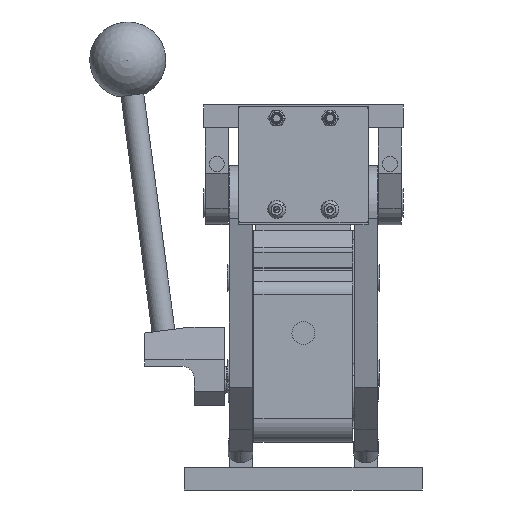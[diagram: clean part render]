
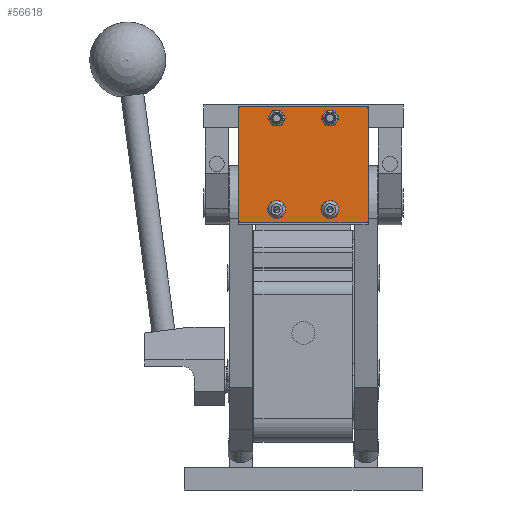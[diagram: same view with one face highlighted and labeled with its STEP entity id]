
A CAD part, left-side view. The second image highlights one B-rep face of the part: STEP entity #56618.
In plain terms, the highlighted planar face has unit normal (-1, 0, 0) as drawn and (0, 0, 1) by its records, which use the part's own axes.
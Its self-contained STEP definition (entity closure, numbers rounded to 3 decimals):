
#149 = DIRECTION ( 'NONE',  ( 0., -1., 0. ) ) ;
#593 = CIRCLE ( 'NONE', #37306, 2.75 ) ;
#774 = FACE_BOUND ( 'NONE', #14080, .T. ) ;
#846 = LINE ( 'NONE', #41870, #33480 ) ;
#911 = ORIENTED_EDGE ( 'NONE', *, *, #6691, .F. ) ;
#1277 = EDGE_CURVE ( 'NONE', #41253, #51552, #43505, .T. ) ;
#1658 = VERTEX_POINT ( 'NONE', #11567 ) ;
#3113 = VERTEX_POINT ( 'NONE', #17120 ) ;
#3203 = DIRECTION ( 'NONE',  ( -1., 0., 0. ) ) ;
#4477 = ORIENTED_EDGE ( 'NONE', *, *, #57223, .F. ) ;
#4602 = EDGE_CURVE ( 'NONE', #25399, #27328, #5806, .T. ) ;
#4932 = VECTOR ( 'NONE', #149, 1000. ) ;
#5280 = AXIS2_PLACEMENT_3D ( 'NONE', #20363, #53674, #24938 ) ;
#5566 = EDGE_CURVE ( 'NONE', #38778, #47153, #24729, .T. ) ;
#5619 = DIRECTION ( 'NONE',  ( 0., 0., 1. ) ) ;
#5639 = FACE_BOUND ( 'NONE', #26496, .T. ) ;
#5806 = CIRCLE ( 'NONE', #27823, 2.75 ) ;
#6097 = DIRECTION ( 'NONE',  ( 0., 0., 1. ) ) ;
#6691 = EDGE_CURVE ( 'NONE', #36536, #3113, #593, .T. ) ;
#7435 = AXIS2_PLACEMENT_3D ( 'NONE', #25360, #61520, #16470 ) ;
#7809 = DIRECTION ( 'NONE',  ( 0., 0., 1. ) ) ;
#9813 = ORIENTED_EDGE ( 'NONE', *, *, #15017, .F. ) ;
#10163 = CARTESIAN_POINT ( 'NONE',  ( 11.25, 8., 32. ) ) ;
#11567 = CARTESIAN_POINT ( 'NONE',  ( 34., 61., 32. ) ) ;
#11968 = DIRECTION ( 'NONE',  ( 1., 0., 0. ) ) ;
#13098 = AXIS2_PLACEMENT_3D ( 'NONE', #42979, #7809, #3203 ) ;
#13160 = CARTESIAN_POINT ( 'NONE',  ( -16.75, 56., 32. ) ) ;
#13453 = CARTESIAN_POINT ( 'NONE',  ( 33., 1., 32. ) ) ;
#13861 = DIRECTION ( 'NONE',  ( 0., 0., 1. ) ) ;
#14080 = EDGE_LOOP ( 'NONE', ( #16696, #18195 ) ) ;
#14851 = DIRECTION ( 'NONE',  ( 1., 0., 0. ) ) ;
#15017 = EDGE_CURVE ( 'NONE', #51552, #41253, #50233, .T. ) ;
#15177 = AXIS2_PLACEMENT_3D ( 'NONE', #33010, #37960, #11968 ) ;
#15647 = EDGE_LOOP ( 'NONE', ( #4477, #36749 ) ) ;
#15996 = EDGE_CURVE ( 'NONE', #3113, #36536, #25208, .T. ) ;
#16219 = DIRECTION ( 'NONE',  ( 0., 1., 0. ) ) ;
#16470 = DIRECTION ( 'NONE',  ( 1., 0., 0. ) ) ;
#16696 = ORIENTED_EDGE ( 'NONE', *, *, #4602, .F. ) ;
#17120 = CARTESIAN_POINT ( 'NONE',  ( -11.25, 56., 32. ) ) ;
#17143 = ORIENTED_EDGE ( 'NONE', *, *, #60816, .T. ) ;
#17675 = VECTOR ( 'NONE', #45396, 1000. ) ;
#18066 = EDGE_CURVE ( 'NONE', #52437, #25906, #44932, .T. ) ;
#18195 = ORIENTED_EDGE ( 'NONE', *, *, #32303, .F. ) ;
#19108 = DIRECTION ( 'NONE',  ( -1., 0., 0. ) ) ;
#19716 = ORIENTED_EDGE ( 'NONE', *, *, #38205, .T. ) ;
#20363 = CARTESIAN_POINT ( 'NONE',  ( -14., 56., 32. ) ) ;
#20406 = EDGE_LOOP ( 'NONE', ( #17143, #60531, #58570, #33593, #38799, #39586, #39605, #19716 ) ) ;
#20432 = PLANE ( 'NONE',  #21084 ) ;
#21084 = AXIS2_PLACEMENT_3D ( 'NONE', #56250, #61508, #47029 ) ;
#21196 = CARTESIAN_POINT ( 'NONE',  ( 14., 8., 32. ) ) ;
#21693 = LINE ( 'NONE', #41433, #63401 ) ;
#21973 = EDGE_CURVE ( 'NONE', #42427, #38778, #23051, .T. ) ;
#22798 = CARTESIAN_POINT ( 'NONE',  ( -14., 8., 32. ) ) ;
#22926 = AXIS2_PLACEMENT_3D ( 'NONE', #21196, #6097, #51459 ) ;
#23051 = CIRCLE ( 'NONE', #27243, 1. ) ;
#23693 = CARTESIAN_POINT ( 'NONE',  ( -14., 8., 32. ) ) ;
#24446 = CARTESIAN_POINT ( 'NONE',  ( 34., 2., 32. ) ) ;
#24729 = LINE ( 'NONE', #31370, #4932 ) ;
#24938 = DIRECTION ( 'NONE',  ( 1., 0., 0. ) ) ;
#24992 = LINE ( 'NONE', #64487, #17675 ) ;
#25208 = CIRCLE ( 'NONE', #5280, 2.75 ) ;
#25360 = CARTESIAN_POINT ( 'NONE',  ( 14., 56., 32. ) ) ;
#25399 = VERTEX_POINT ( 'NONE', #49169 ) ;
#25633 = ORIENTED_EDGE ( 'NONE', *, *, #15996, .F. ) ;
#25681 = FACE_BOUND ( 'NONE', #15647, .T. ) ;
#25906 = VERTEX_POINT ( 'NONE', #38887 ) ;
#25987 = CARTESIAN_POINT ( 'NONE',  ( -14., 56., 32. ) ) ;
#26391 = EDGE_CURVE ( 'NONE', #47153, #57948, #43323, .T. ) ;
#26496 = EDGE_LOOP ( 'NONE', ( #25633, #911 ) ) ;
#26757 = DIRECTION ( 'NONE',  ( 0., 0., 1. ) ) ;
#26870 = ORIENTED_EDGE ( 'NONE', *, *, #1277, .F. ) ;
#27243 = AXIS2_PLACEMENT_3D ( 'NONE', #44098, #38881, #19108 ) ;
#27328 = VERTEX_POINT ( 'NONE', #62307 ) ;
#27620 = VERTEX_POINT ( 'NONE', #24446 ) ;
#27823 = AXIS2_PLACEMENT_3D ( 'NONE', #22798, #26757, #31754 ) ;
#29662 = FACE_OUTER_BOUND ( 'NONE', #20406, .T. ) ;
#31014 = CARTESIAN_POINT ( 'NONE',  ( 33., 61., 32. ) ) ;
#31370 = CARTESIAN_POINT ( 'NONE',  ( -34., 2., 32. ) ) ;
#31754 = DIRECTION ( 'NONE',  ( 1., 0., 0. ) ) ;
#32194 = DIRECTION ( 'NONE',  ( 0., 0., 1. ) ) ;
#32303 = EDGE_CURVE ( 'NONE', #27328, #25399, #47772, .T. ) ;
#32827 = AXIS2_PLACEMENT_3D ( 'NONE', #33153, #32194, #47920 ) ;
#33010 = CARTESIAN_POINT ( 'NONE',  ( 14., 8., 32. ) ) ;
#33153 = CARTESIAN_POINT ( 'NONE',  ( -33., 2., 32. ) ) ;
#33195 = VERTEX_POINT ( 'NONE', #56058 ) ;
#33480 = VECTOR ( 'NONE', #16219, 1000. ) ;
#33593 = ORIENTED_EDGE ( 'NONE', *, *, #47150, .T. ) ;
#34248 = EDGE_CURVE ( 'NONE', #27620, #1658, #846, .T. ) ;
#34695 = EDGE_CURVE ( 'NONE', #1658, #33195, #35639, .T. ) ;
#35574 = DIRECTION ( 'NONE',  ( 0., 0., 1. ) ) ;
#35639 = CIRCLE ( 'NONE', #57665, 1. ) ;
#36536 = VERTEX_POINT ( 'NONE', #13160 ) ;
#36571 = AXIS2_PLACEMENT_3D ( 'NONE', #39742, #65013, #60749 ) ;
#36749 = ORIENTED_EDGE ( 'NONE', *, *, #18066, .F. ) ;
#37306 = AXIS2_PLACEMENT_3D ( 'NONE', #25987, #5619, #14851 ) ;
#37960 = DIRECTION ( 'NONE',  ( 0., 0., 1. ) ) ;
#38205 = EDGE_CURVE ( 'NONE', #57948, #54390, #24992, .T. ) ;
#38778 = VERTEX_POINT ( 'NONE', #57133 ) ;
#38799 = ORIENTED_EDGE ( 'NONE', *, *, #21973, .T. ) ;
#38881 = DIRECTION ( 'NONE',  ( 0., 0., 1. ) ) ;
#38887 = CARTESIAN_POINT ( 'NONE',  ( 16.75, 56., 32. ) ) ;
#39586 = ORIENTED_EDGE ( 'NONE', *, *, #5566, .T. ) ;
#39605 = ORIENTED_EDGE ( 'NONE', *, *, #26391, .T. ) ;
#39742 = CARTESIAN_POINT ( 'NONE',  ( 14., 56., 32. ) ) ;
#40200 = FACE_BOUND ( 'NONE', #61409, .T. ) ;
#40800 = DIRECTION ( 'NONE',  ( -1., 0., 0. ) ) ;
#41253 = VERTEX_POINT ( 'NONE', #50993 ) ;
#41433 = CARTESIAN_POINT ( 'NONE',  ( -33., 62., 32. ) ) ;
#41870 = CARTESIAN_POINT ( 'NONE',  ( 34., 61., 32. ) ) ;
#42427 = VERTEX_POINT ( 'NONE', #47110 ) ;
#42979 = CARTESIAN_POINT ( 'NONE',  ( 33., 2., 32. ) ) ;
#43323 = CIRCLE ( 'NONE', #32827, 1. ) ;
#43505 = CIRCLE ( 'NONE', #15177, 2.75 ) ;
#44098 = CARTESIAN_POINT ( 'NONE',  ( -33., 61., 32. ) ) ;
#44932 = CIRCLE ( 'NONE', #36571, 2.75 ) ;
#45396 = DIRECTION ( 'NONE',  ( 1., 0., 0. ) ) ;
#46408 = DIRECTION ( 'NONE',  ( 1., 0., 0. ) ) ;
#47029 = DIRECTION ( 'NONE',  ( -1., 0., 0. ) ) ;
#47110 = CARTESIAN_POINT ( 'NONE',  ( -33., 62., 32. ) ) ;
#47150 = EDGE_CURVE ( 'NONE', #33195, #42427, #21693, .T. ) ;
#47153 = VERTEX_POINT ( 'NONE', #50292 ) ;
#47730 = CIRCLE ( 'NONE', #13098, 1. ) ;
#47772 = CIRCLE ( 'NONE', #58298, 2.75 ) ;
#47920 = DIRECTION ( 'NONE',  ( 1., 0., 0. ) ) ;
#49169 = CARTESIAN_POINT ( 'NONE',  ( -11.25, 8., 32. ) ) ;
#50233 = CIRCLE ( 'NONE', #22926, 2.75 ) ;
#50292 = CARTESIAN_POINT ( 'NONE',  ( -34., 2., 32. ) ) ;
#50993 = CARTESIAN_POINT ( 'NONE',  ( 16.75, 8., 32. ) ) ;
#51459 = DIRECTION ( 'NONE',  ( 1., 0., 0. ) ) ;
#51552 = VERTEX_POINT ( 'NONE', #10163 ) ;
#52437 = VERTEX_POINT ( 'NONE', #61439 ) ;
#53674 = DIRECTION ( 'NONE',  ( 0., 0., 1. ) ) ;
#54390 = VERTEX_POINT ( 'NONE', #13453 ) ;
#54612 = CIRCLE ( 'NONE', #7435, 2.75 ) ;
#56058 = CARTESIAN_POINT ( 'NONE',  ( 33., 62., 32. ) ) ;
#56250 = CARTESIAN_POINT ( 'NONE',  ( 33., 2., 32. ) ) ;
#56618 = ADVANCED_FACE ( 'NONE', ( #774, #40200, #5639, #25681, #29662 ), #20432, .F. ) ;
#57133 = CARTESIAN_POINT ( 'NONE',  ( -34., 61., 32. ) ) ;
#57223 = EDGE_CURVE ( 'NONE', #25906, #52437, #54612, .T. ) ;
#57665 = AXIS2_PLACEMENT_3D ( 'NONE', #31014, #35574, #46408 ) ;
#57728 = CARTESIAN_POINT ( 'NONE',  ( -33., 1., 32. ) ) ;
#57948 = VERTEX_POINT ( 'NONE', #57728 ) ;
#58298 = AXIS2_PLACEMENT_3D ( 'NONE', #23693, #13861, #58915 ) ;
#58570 = ORIENTED_EDGE ( 'NONE', *, *, #34695, .T. ) ;
#58915 = DIRECTION ( 'NONE',  ( 1., 0., 0. ) ) ;
#60531 = ORIENTED_EDGE ( 'NONE', *, *, #34248, .T. ) ;
#60749 = DIRECTION ( 'NONE',  ( 1., 0., 0. ) ) ;
#60816 = EDGE_CURVE ( 'NONE', #54390, #27620, #47730, .T. ) ;
#61409 = EDGE_LOOP ( 'NONE', ( #26870, #9813 ) ) ;
#61439 = CARTESIAN_POINT ( 'NONE',  ( 11.25, 56., 32. ) ) ;
#61508 = DIRECTION ( 'NONE',  ( 0., 0., -1. ) ) ;
#61520 = DIRECTION ( 'NONE',  ( 0., 0., 1. ) ) ;
#62307 = CARTESIAN_POINT ( 'NONE',  ( -16.75, 8., 32. ) ) ;
#63401 = VECTOR ( 'NONE', #40800, 1000. ) ;
#64487 = CARTESIAN_POINT ( 'NONE',  ( -33., 1., 32. ) ) ;
#65013 = DIRECTION ( 'NONE',  ( 0., 0., 1. ) ) ;
